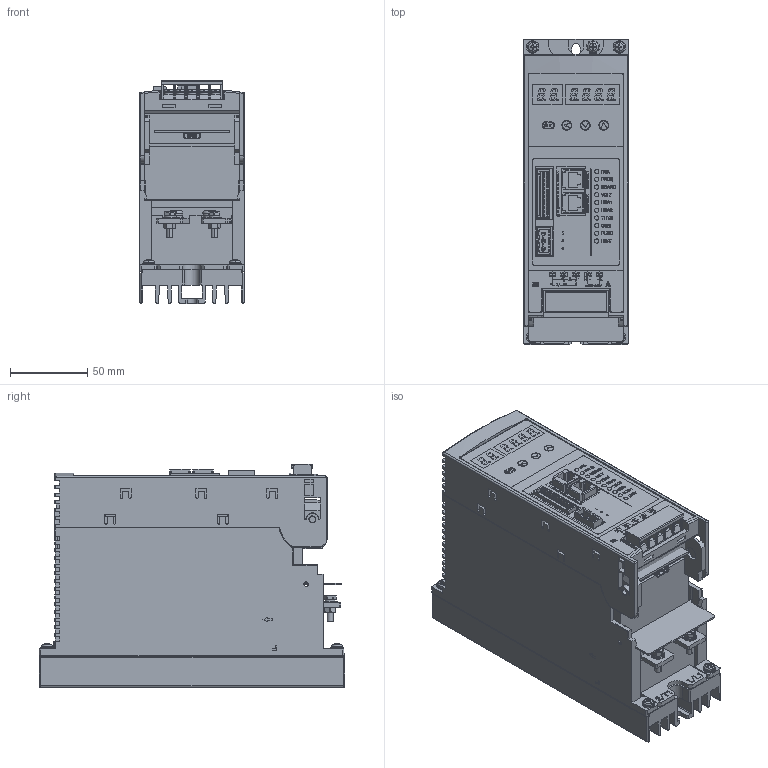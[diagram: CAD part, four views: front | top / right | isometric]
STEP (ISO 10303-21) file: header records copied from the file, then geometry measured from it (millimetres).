
FILE_DESCRIPTION (( 'STEP AP203' ), '1' );
FILE_NAME ('THVA1-2030A僄儔乕売強廋惓_WEB.STEP', '2020-09-29T10:58:28', ( '' ), ( '' ), 'SwSTEP 2.0', 'SolidWorks 2018', '' );
FILE_SCHEMA (( 'CONFIG_CONTROL_DESIGN' ));
Products named in the file (1): THVA1-2030A僄儔乕売強廋惓_WEB
Bounding box: 68 x 198 x 144.6 mm (x, y, z)
Volume: 1608206.2 mm3; surface area: 321141.4 mm2
Topology: 36 solids, 37 shells, 5883 faces, 15806 edges, 10400 vertices
Faces by surface type: plane 4166, cylinder 1020, bspline 541, cone 67, sphere 46, torus 43
Entity records: 194785 total; most frequent: CARTESIAN_POINT 49086, ORIENTED_EDGE 31540, DIRECTION 27412, EDGE_CURVE 15770, LINE 12132, VECTOR 12132, VERTEX_POINT 10400, AXIS2_PLACEMENT_3D 7640
